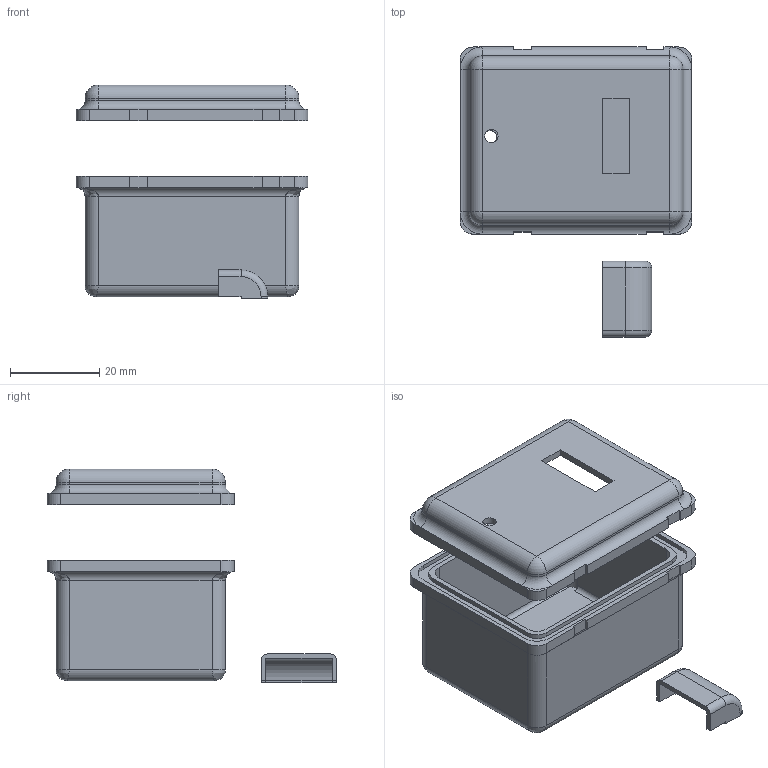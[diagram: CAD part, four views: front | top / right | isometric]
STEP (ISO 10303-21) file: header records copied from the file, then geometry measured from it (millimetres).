
FILE_DESCRIPTION(('STEP AP242'), '1');
FILE_NAME('waterproof box', '', ('UNSPECIFIED'), ('UNSPECIFIED'), 'ASCON STEP Converter 1.6', 'ASCON Math Kernel', '');
FILE_SCHEMA(('AP242_MANAGED_MODEL_BASED_3D_ENGINEERING_MIM_LF { 1 0 10303 442 1 1 4 }'));
Length unit declared in the file: millimetre
Bounding box: 52 x 65 x 48 mm (x, y, z)
Volume: 18130.2 mm3; surface area: 19542 mm2
Topology: 3 solids, 3 shells, 203 faces, 524 edges, 324 vertices
Faces by surface type: plane 112, cylinder 73, bspline 8, torus 6, sphere 4
Full cylindrical faces by diameter (mm): 3 x3
Entity records: 9405 total; most frequent: CARTESIAN_POINT 2832, ORIENTED_EDGE 1026, DIRECTION 997, EDGE_CURVE 513, LINE 339, VECTOR 339, AXIS2_PLACEMENT_3D 329, VERTEX_POINT 324
